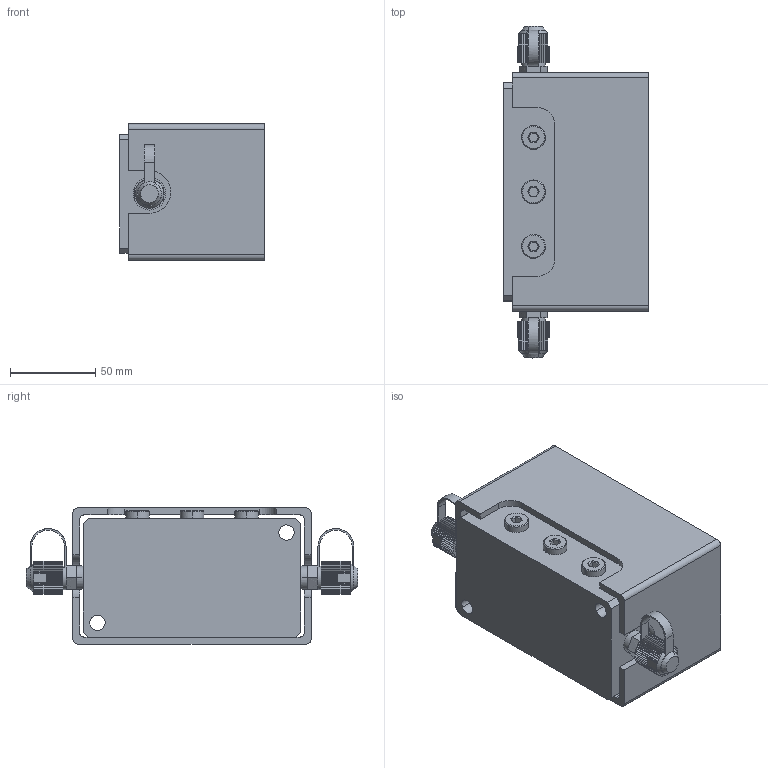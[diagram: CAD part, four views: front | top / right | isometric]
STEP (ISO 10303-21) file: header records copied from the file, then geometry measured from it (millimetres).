
FILE_DESCRIPTION(('CATIA V5 STEP Exchange'),'2;1');
FILE_NAME('W:\LIBRERIA TECAPRES®\FICHEROS CAD\PANEL DE CONTROL\P100.stp','2016-02-03T05:39:57+00:00',('none'),('none'),'CATIA Version 5 Release 17 (IN-10)','CATIA V5 STEP AP203','none');
FILE_SCHEMA(('CONFIG_CONTROL_DESIGN'));
Length unit declared in the file: millimetre
Products named in the file (1): P100
Bounding box: 85 x 195 x 80 mm (x, y, z)
Volume: 516352.3 mm3; surface area: 114472.8 mm2
Topology: 1 solids, 5 shells, 741 faces, 1993 edges, 1294 vertices
Faces by surface type: plane 473, cylinder 157, cone 93, torus 18
Entity records: 24730 total; most frequent: CARTESIAN_POINT 7384, ORIENTED_EDGE 3982, DIRECTION 2858, EDGE_CURVE 1991, VECTOR 1447, LINE 1447, VERTEX_POINT 1293, AXIS2_PLACEMENT_3D 848
